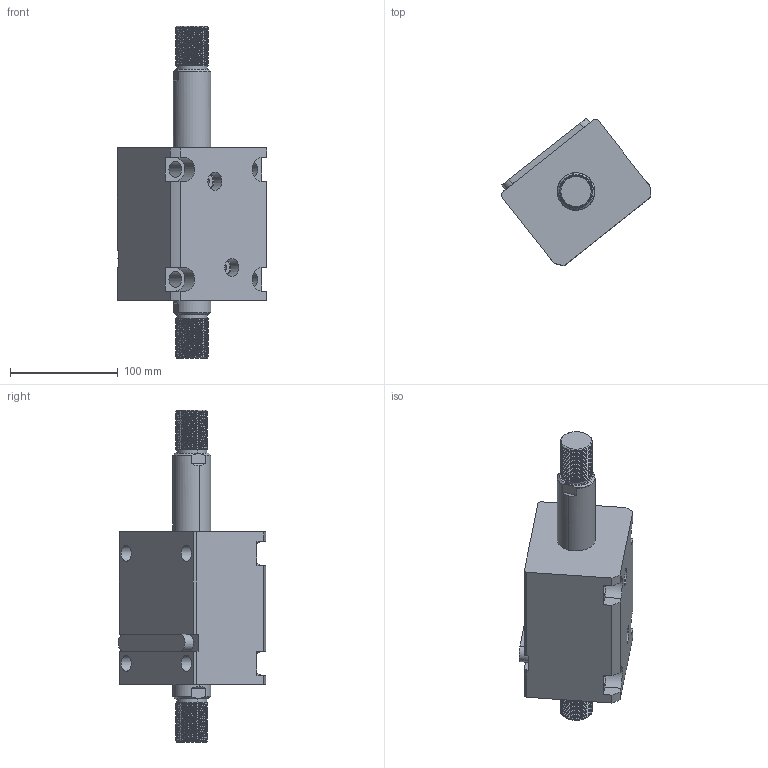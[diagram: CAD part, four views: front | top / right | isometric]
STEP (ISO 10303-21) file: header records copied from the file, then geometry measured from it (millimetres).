
FILE_DESCRIPTION (( 'STEP AP214' ), '1' );
FILE_NAME ('chtb-lw63x60w_asm.STEP', '2018-05-18T08:49:33', ( 'Windows' ), ( 'Microsoft' ), 'SwSTEP 2.0', 'SolidWorks 2015', '' );
FILE_SCHEMA (( 'AUTOMOTIVE_DESIGN' ));
Length unit declared in the file: millimetre
Products named in the file (5): CHTB-LA63PJ; CHTB-SW63X60WHSG; CHTB-LW63X60NBT; CHTB-63QG; chtb-lw63x60w_asm
Assembly tree (4 placements, depth 2):
  chtb-lw63x60w_asm
    CHTB-63QG
    CHTB-LW63X60NBT
    CHTB-SW63X60WHSG
    CHTB-LA63PJ
Bounding box: 138.98 x 136.88 x 308 mm (x, y, z)
Volume: 1365998.3 mm3; surface area: 189024.2 mm2
Topology: 4 solids, 4 shells, 306 faces, 889 edges, 601 vertices
Faces by surface type: cylinder 204, plane 58, bspline 16, cone 16, torus 12
Entity records: 27878 total; most frequent: CARTESIAN_POINT 20531, ORIENTED_EDGE 1770, DIRECTION 1228, EDGE_CURVE 885, VERTEX_POINT 601, AXIS2_PLACEMENT_3D 458, EDGE_LOOP 336, VECTOR 312
